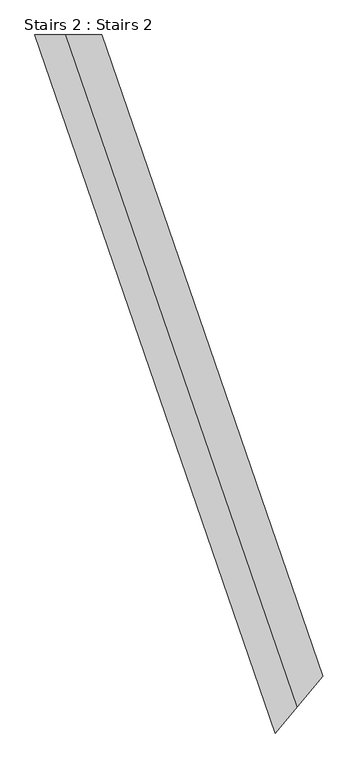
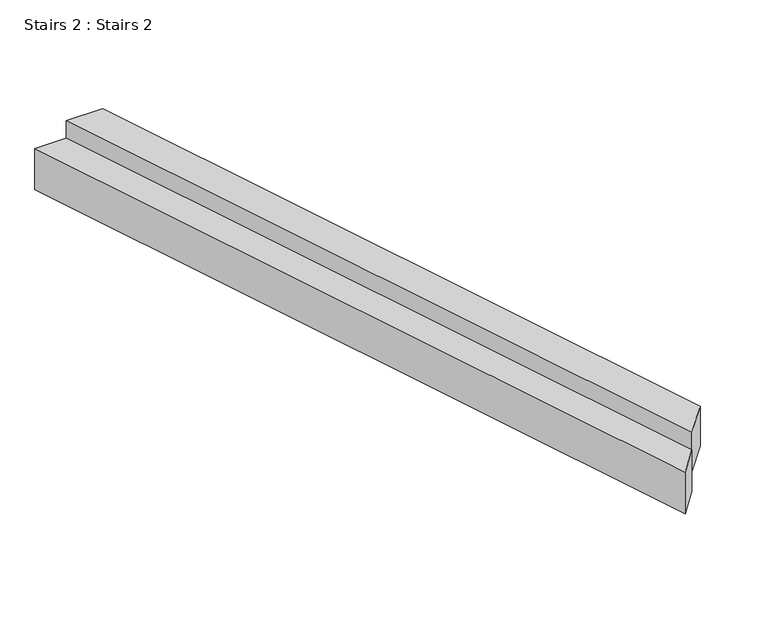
"""IFC4 building model written with IfcOpenShell, lengths in millimetres: stair geometry, Stairs 2 : Stairs 2."""

from ifc_helpers import new_model, si_unit, frame, origin, place, context, project, spatial, polyline, outline, extrude, source, transform, mapped, element, save


def stairs_2_stairs_2_ca189b1b(model_context):
    return source(origin(), model_context, "Body", "SweptSolid", [
        extrude(outline(polyline([(-17196.4005303, 4769.6443716), (-16879.114326, 4769.6443716), (-14505.7355146, -2123.1481893), (-14730.7047624, -2391.2560986), (-17196.4005303, 4769.6443716)])), frame((0.0, 0.0, -1959.7396569), z_axis=(0.0, 0.0, 1.0), x_axis=(1.0, 0.0, 0.0)), (0.0, 0.0, 1.0), 444.5464388),
        extrude(outline(polyline([(-14243.2713921, -1810.3556284), (-14505.7355146, -2123.1481893), (-16879.114326, 4769.6443716), (-16508.9470876, 4769.6443716), (-14243.2713921, -1810.3556284)])), frame((0.0, 0.0, -1752.8056633), z_axis=(0.0, 0.0, 1.0), x_axis=(1.0, 0.0, 0.0)), (0.0, 0.0, 1.0), 422.8056633),
    ])


if __name__ == "__main__":
    model = new_model("IFC4")
    model_context = context("Model", 3, world=origin())
    ifc_project = project(units=[si_unit("LENGTHUNIT", "METRE", prefix="MILLI")], contexts=[model_context])
    site = spatial("IfcSite", under=ifc_project)
    building = spatial("IfcBuilding", under=site)
    placement = place(None, origin())
    stairs_2_stairs_2_shape = stairs_2_stairs_2_ca189b1b(model_context)
    element("IfcStair", 1, ObjectType="Stairs 2 : Stairs 2", at=placement, inside=building, context=model_context, shape_type="MappedRepresentation", body=[
        mapped(stairs_2_stairs_2_shape, transform((0.0, 0.0, 0.0), x_axis=(1.0, 0.0, 0.0), y_axis=(0.0, 1.0, 0.0), z_axis=(0.0, 0.0, 1.0))),
    ])
    save(model, "model.ifc")
